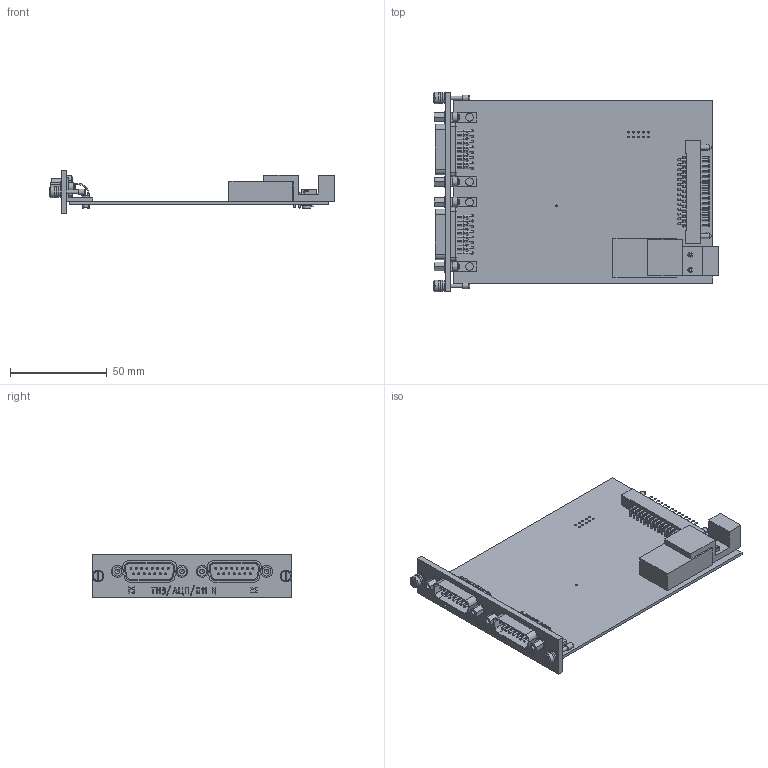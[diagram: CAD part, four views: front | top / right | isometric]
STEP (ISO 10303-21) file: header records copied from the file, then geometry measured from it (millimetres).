
FILE_DESCRIPTION(('STEP AP203'), '1');
FILE_NAME('帎迗.468155.020 沓劌錪 眝3_氈柉011', '', ('UNSPECIFIED'), ('UNSPECIFIED'), 'C3D Converter', 'C3D Toolkit', '');
FILE_SCHEMA(('CONFIG_CONTROL_DESIGN'));
Length unit declared in the file: millimetre
Products named in the file (1): КМНТ.468155.020
Bounding box: 147.3 x 103 x 21.7 mm (x, y, z)
Volume: 33698 mm3; surface area: 43777.4 mm2
Topology: 1 solids, 2 shells, 1756 faces, 4582 edges, 2915 vertices
Faces by surface type: cylinder 822, plane 729, torus 69, sphere 60, revolution 58, cone 18
Full cylindrical faces by diameter (mm): 0.6 x163, 0.8 x29, 0.9 x10, 1 x131, 1.6 x2, 2 x2, 2.459 x6, 2.49 x2, 2.5 x4, 2.7 x2, 3 x10, 3.1 x4, 3.2 x2, 3.5 x4, 4 x4, 4.5 x2, 5 x6, 6 x10
Entity records: 71675 total; most frequent: CARTESIAN_POINT 15489, DIRECTION 9130, ORIENTED_EDGE 7816, EDGE_CURVE 3908, AXIS2_PLACEMENT_3D 3610, VERTEX_POINT 2910, EDGE_LOOP 2666, FACE_BOUND 2042
